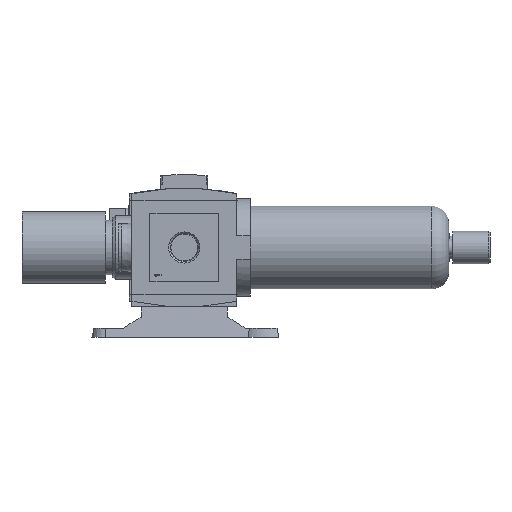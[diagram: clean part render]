
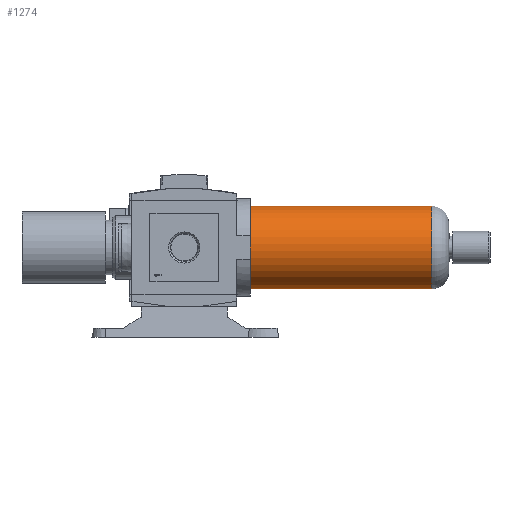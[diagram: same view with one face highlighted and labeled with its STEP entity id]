
A CAD part, left-side view. The second image highlights one B-rep face of the part: STEP entity #1274.
In plain terms, the highlighted cylindrical face has radius 24.25 mm (diameter 48.5 mm), a full revolution.
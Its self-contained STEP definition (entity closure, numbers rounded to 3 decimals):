
#1274 = ADVANCED_FACE( '', ( #2797, #2798 ), #2799, .T. );
#2797 = FACE_OUTER_BOUND( '', #4825, .T. );
#2798 = FACE_OUTER_BOUND( '', #4826, .T. );
#2799 = CYLINDRICAL_SURFACE( '', #4827, 24.25 );
#4825 = EDGE_LOOP( '', ( #7592 ) );
#4826 = EDGE_LOOP( '', ( #7593 ) );
#4827 = AXIS2_PLACEMENT_3D( '', #7594, #7595, #7596 );
#7592 = ORIENTED_EDGE( '', *, *, #12130, .F. );
#7593 = ORIENTED_EDGE( '', *, *, #12131, .T. );
#7594 = CARTESIAN_POINT( '', ( 0., -115.5, 0. ) );
#7595 = DIRECTION( '', ( 0., 1., 0. ) );
#7596 = DIRECTION( '', ( 0., 0., -1. ) );
#12130 = EDGE_CURVE( '', #14563, #14563, #14564, .T. );
#12131 = EDGE_CURVE( '', #14565, #14565, #14566, .T. );
#14563 = VERTEX_POINT( '', #18002 );
#14564 = CIRCLE( '', #18003, 24.25 );
#14565 = VERTEX_POINT( '', #18004 );
#14566 = CIRCLE( '', #18005, 24.25 );
#18002 = CARTESIAN_POINT( '', ( 0., -105.5, -24.25 ) );
#18003 = AXIS2_PLACEMENT_3D( '', #21169, #21170, #21171 );
#18004 = CARTESIAN_POINT( '', ( 0., 0., -24.25 ) );
#18005 = AXIS2_PLACEMENT_3D( '', #21172, #21173, #21174 );
#21169 = CARTESIAN_POINT( '', ( 0., -105.5, 0. ) );
#21170 = DIRECTION( '', ( 0., -1., 0. ) );
#21171 = DIRECTION( '', ( 0., 0., -1. ) );
#21172 = CARTESIAN_POINT( '', ( 0., 0., 0. ) );
#21173 = DIRECTION( '', ( 0., -1., 0. ) );
#21174 = DIRECTION( '', ( 0., 0., -1. ) );
